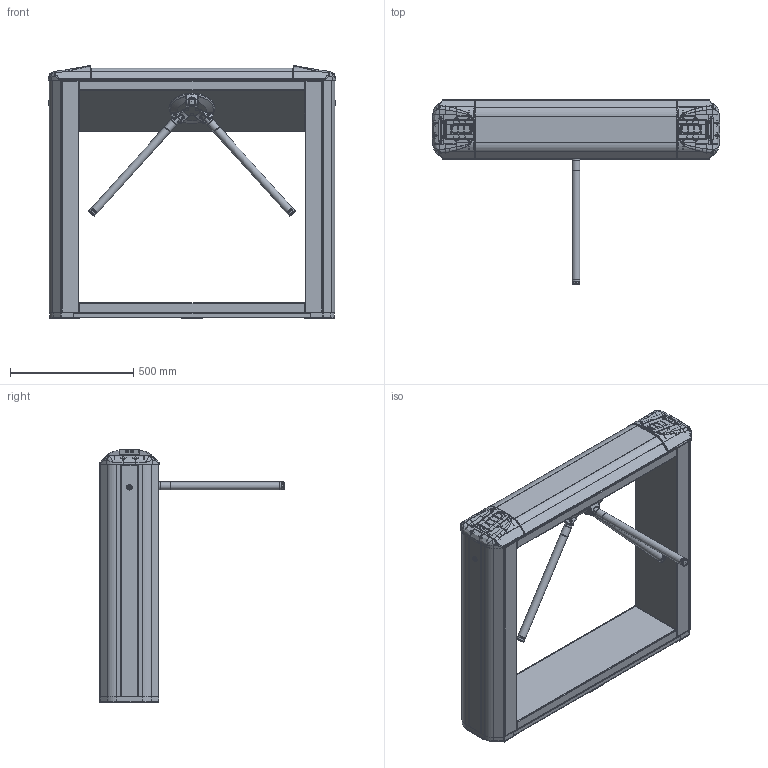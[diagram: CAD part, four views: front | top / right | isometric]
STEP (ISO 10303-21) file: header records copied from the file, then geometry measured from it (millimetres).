
FILE_DESCRIPTION(/* description */ ('Unknown'),/* implementation_level */ '2;1');
FILE_NAME(/* name */ 'TB01.1A',/* time_stamp */ '2021-11-23T17:49:40+03:00',/* author */ ('Unknown'),/* organization */ ('Unknown'),/* preprocessor_version */ 'ST-DEVELOPER v18.1',/* originating_system */ 'Solid Edge',/* authorisation */ 'Unknown');
FILE_SCHEMA (('CONFIG_CONTROL_DESIGN'));
Products named in the file (45): 栖闉罻21; TB01.1A; TB01.1A.300.00 Áàçîâûé ìîäóëü ÒÂÀ_ÊÒÀ_oa_0; TB-01A.040.00-01 昢膼瘔膻嬅oa_1; TB-01A.040.02 ﾒ矜; TB-01A.040.01 Îïîðà; KTC01.020.08 栺樇罻; KTC01.021.00 玉桦栩咫黖oa_2; KTC01.020.09 玉桦栩咫黖oa_3; TB-01A.010.00-01 忺謤僔_oa_4; TB-01A.010.03 Ñòåíêà áîêîâàÿ_oa_5; TB-01A.010.04-01 Ñòåíêà íèæíÿÿ; TB-01A.010.03 Ñòåíêà áîêîâàÿ; TB-01A.010.02-01 Ñòåíêà çàäíÿÿ; TB-01A.010.01-01 Ñòåíêà íàêëîííàÿ; KTC01.3.030.00 扻羰騶oa_6; KTC01.3.030.06 ﾊ鮻; KTC01.3.030.00 扻羰騶oa_7; TB-01A.050.00-01 栖闉罻 憵羻睯罻_oa_8; TTR-07.301.01-05 枟羻睯獥r1; TB-01A.051.00-01 Ïëàíêà ïðåãðàæäàþùàÿ; TTR-07.630.01-01 嵑謺麃_r1; TTR-07.630.02 Âñòàâêà ìàëàÿ; TB-01A.051.01-01 秮鶋趌r2; Çàãëóøêà_CGR-322-090_(32õ2); TTR-07.300.11-01 Îñü; 嵑殧趌8_DIN_7980; 鎔艜_M8x25_DIN_912; TB-01A.020.00-01 ﾊ濱oa_9; TB-01A.020.01-01 署赅; Çàêëåïêà_âûòÿæíàÿ_3,2õ6_DIN_7337_1,0...3,0_àëþì._oa_10; Çàêëåïêà_âûòÿæíàÿ_3,2õ6_DIN_7337_1,0...3,0_àëþì._oa_11; 侹緺趌3M_Bumpon_SJ-5306_9,5x3,8; TBC01.159.00 ﾊ濱oa_12; KTC01.150.01 署赅; KTC01.150.03 栺樏鋋; KTC01.150.02 青汶篪赅; KTC01.070.00 青汶篪赅_oa_13; KTC01.070.01 栺樇罻; Çàìîê ìåáåëüíûé 505_oa_14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
Assembly tree (68 placements, depth 6):
  栖闉罻21
    TB01.1A
      TB01.1A.300.00 Áàçîâûé ìîäóëü ÒÂÀ_ÊÒÀ_oa_0
        TB-01A.040.00-01 昢膼瘔膻嬅oa_1
          TB-01A.040.02 ﾒ矜  x2
          TB-01A.040.01 Îïîðà  x2
          KTC01.020.08 栺樇罻  x2
          KTC01.021.00 玉桦栩咫黖oa_2
            KTC01.020.09 玉桦栩咫黖oa_3
        TB-01A.010.00-01 忺謤僔_oa_4
          TB-01A.010.03 Ñòåíêà áîêîâàÿ_oa_5
          TB-01A.010.04-01 Ñòåíêà íèæíÿÿ
          TB-01A.010.03 Ñòåíêà áîêîâàÿ
          TB-01A.010.02-01 Ñòåíêà çàäíÿÿ
          TB-01A.010.01-01 Ñòåíêà íàêëîííàÿ
        KTC01.3.030.00 扻羰騶oa_6
          KTC01.3.030.06 ﾊ鮻  x2
        KTC01.3.030.00 扻羰騶oa_7
          KTC01.3.030.06 ﾊ鮻  x2
        TB-01A.050.00-01 栖闉罻 憵羻睯罻_oa_8
          TTR-07.301.01-05 枟羻睯獥r1
          TB-01A.051.00-01 Ïëàíêà ïðåãðàæäàþùàÿ  x3
            TTR-07.630.01-01 嵑謺麃_r1
            TTR-07.630.02 Âñòàâêà ìàëàÿ
            TB-01A.051.01-01 秮鶋趌r2
            Çàãëóøêà_CGR-322-090_(32õ2)
          TTR-07.300.11-01 Îñü  x3
        嵑殧趌8_DIN_7980  x3
        鎔艜_M8x25_DIN_912  x3
        TB-01A.020.00-01 ﾊ濱oa_9
          TB-01A.020.01-01 署赅
          Çàêëåïêà_âûòÿæíàÿ_3,2õ6_DIN_7337_1,0...3,0_àëþì._oa_10
          Çàêëåïêà_âûòÿæíàÿ_3,2õ6_DIN_7337_1,0...3,0_àëþì._oa_11
          侹緺趌3M_Bumpon_SJ-5306_9,5x3,8  x4
      TBC01.159.00 ﾊ濱oa_12
        KTC01.150.01 署赅
        KTC01.150.03 栺樏鋋
      KTC01.150.02 青汶篪赅  x2
      KTC01.070.00 青汶篪赅_oa_13
        KTC01.070.01 栺樇罻
        Çàìîê ìåáåëüíûé 505_oa_14
          Çàìîê ìåáåëüíûé 505_êîðïóñ
          Çàìîê ìåáåëüíûé 505_îñü
      KTC01.070.00 青汶篪赅_oa_15
        KTC01.070.01 栺樇罻
        Çàìîê ìåáåëüíûé 505_oa_16
          Çàìîê ìåáåëüíûé 505_êîðïóñ
          Çàìîê ìåáåëüíûé 505_îñü
      TBC01.159.00 ﾊ濱oa_17
        KTC01.150.01 署赅
        KTC01.150.03 栺樏鋋
Bounding box: 1169.48 x 751.42 x 1027.33 mm (x, y, z)
Volume: 5853699.1 mm3; surface area: 6703305.3 mm2
Topology: 60 solids, 60 shells, 5536 faces, 13715 edges, 8276 vertices
Faces by surface type: plane 2181, cylinder 1656, bspline 914, sphere 348, torus 235, cone 202
Full cylindrical faces by diameter (mm): 0.4 x4, 2 x2, 2.5 x12, 3.2 x2, 3.242 x31, 3.3 x35, 3.7 x4, 4 x1, 5 x14, 6.466 x3, 7 x41, 8 x19, 9 x3, 10 x21, 12 x4, 13 x7, 14.5 x3, 16 x4, 20 x1, 21 x8, 23 x2, 23.4 x3, 24 x8, 27 x6, 28 x3, 28.5 x6, 32 x9, 185 x1, 188 x1
Entity records: 121308 total; most frequent: CARTESIAN_POINT 37799, ORIENTED_EDGE 16190, DIRECTION 14800, EDGE_CURVE 8095, AXIS2_PLACEMENT_3D 5572, VERTEX_POINT 5005, FACE_BOUND 3962, EDGE_LOOP 3948
